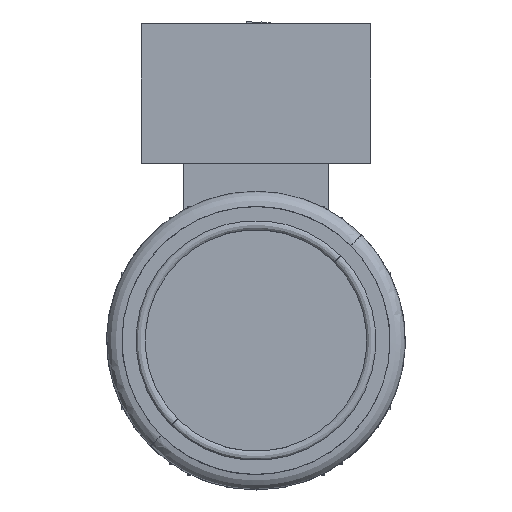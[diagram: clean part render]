
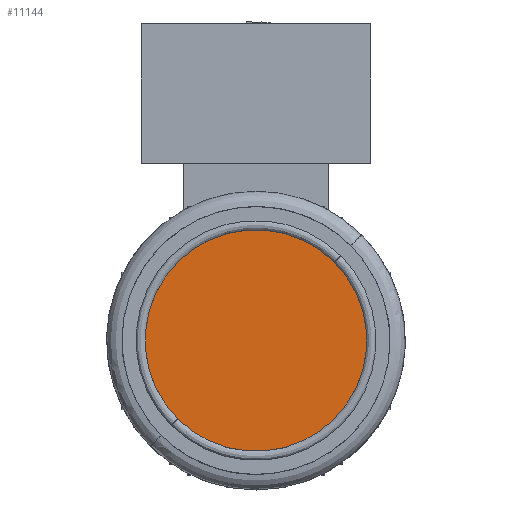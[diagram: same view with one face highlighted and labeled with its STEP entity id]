
A CAD part, top view. The second image highlights one B-rep face of the part: STEP entity #11144.
In plain terms, the highlighted planar face has unit normal (0, 0, 1).
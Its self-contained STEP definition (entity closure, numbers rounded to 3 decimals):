
#61 = FACE_OUTER_BOUND ( 'NONE', #2732, .T. ) ;
#1659 = AXIS2_PLACEMENT_3D ( 'NONE', #13633, #20939, #2571 ) ;
#2571 = DIRECTION ( 'NONE',  ( 0., 1., 0. ) ) ;
#2732 = EDGE_LOOP ( 'NONE', ( #17336, #28827 ) ) ;
#3570 = AXIS2_PLACEMENT_3D ( 'NONE', #17792, #29488, #22442 ) ;
#4850 = CARTESIAN_POINT ( 'NONE',  ( 0., 0., 158.5 ) ) ;
#5530 = VERTEX_POINT ( 'NONE', #9811 ) ;
#9811 = CARTESIAN_POINT ( 'NONE',  ( 46.166, 46.166, 158.5 ) ) ;
#10478 = AXIS2_PLACEMENT_3D ( 'NONE', #4850, #14114, #25611 ) ;
#11068 = EDGE_CURVE ( 'NONE', #19615, #5530, #21450, .T. ) ;
#11144 = ADVANCED_FACE ( 'NONE', ( #61 ), #18554, .F. ) ;
#13633 = CARTESIAN_POINT ( 'NONE',  ( -46.246, 46.246, 158.5 ) ) ;
#14114 = DIRECTION ( 'NONE',  ( 0., 0., -1. ) ) ;
#17336 = ORIENTED_EDGE ( 'NONE', *, *, #11068, .F. ) ;
#17792 = CARTESIAN_POINT ( 'NONE',  ( 0., 0., 158.5 ) ) ;
#18554 = PLANE ( 'NONE',  #1659 ) ;
#19615 = VERTEX_POINT ( 'NONE', #24393 ) ;
#20939 = DIRECTION ( 'NONE',  ( 0., 0., -1. ) ) ;
#21450 = CIRCLE ( 'NONE', #3570, 65.289 ) ;
#22442 = DIRECTION ( 'NONE',  ( 0., 1., 0. ) ) ;
#23671 = CIRCLE ( 'NONE', #10478, 65.289 ) ;
#24393 = CARTESIAN_POINT ( 'NONE',  ( -46.166, -46.166, 158.5 ) ) ;
#24917 = EDGE_CURVE ( 'NONE', #5530, #19615, #23671, .T. ) ;
#25611 = DIRECTION ( 'NONE',  ( 0., 1., 0. ) ) ;
#28827 = ORIENTED_EDGE ( 'NONE', *, *, #24917, .F. ) ;
#29488 = DIRECTION ( 'NONE',  ( 0., 0., -1. ) ) ;
